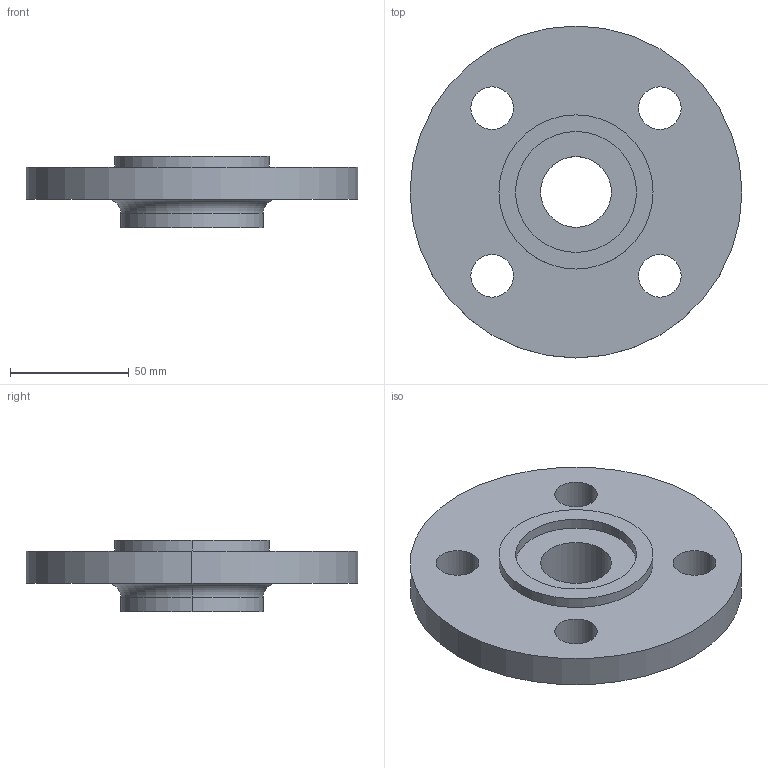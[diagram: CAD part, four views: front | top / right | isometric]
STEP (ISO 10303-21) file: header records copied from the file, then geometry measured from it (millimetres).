
FILE_DESCRIPTION (( 'STEP AP214' ), '1' );
FILE_NAME ('PN40 DN32 Type 13 - Type C Face.STEP', '2018-12-29T23:54:15', ( '' ), ( '' ), 'SwSTEP 2.0', 'SolidWorks 2019', '' );
FILE_SCHEMA (( 'AUTOMOTIVE_DESIGN' ));
Length unit declared in the file: millimetre
Products named in the file (1): PN40 DN32 Type 13 - Type C Face
Bounding box: 140 x 140 x 30 mm (x, y, z)
Volume: 217438.1 mm3; surface area: 42167.4 mm2
Topology: 1 solids, 1 shells, 25 faces, 58 edges, 38 vertices
Faces by surface type: cylinder 18, plane 5, torus 2
Entity records: 790 total; most frequent: DIRECTION 150, CARTESIAN_POINT 122, ORIENTED_EDGE 116, AXIS2_PLACEMENT_3D 66, EDGE_CURVE 58, CIRCLE 40, EDGE_LOOP 38, VERTEX_POINT 38
